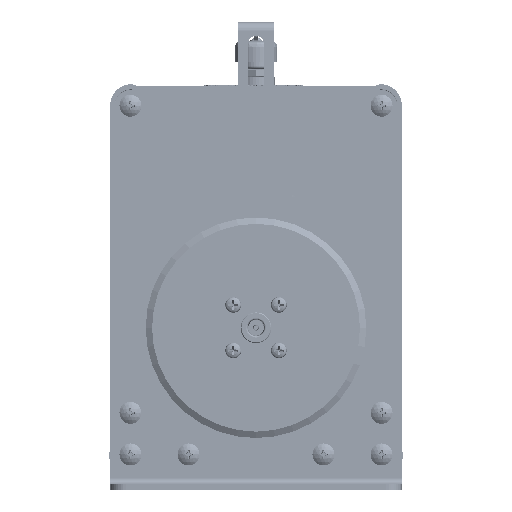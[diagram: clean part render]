
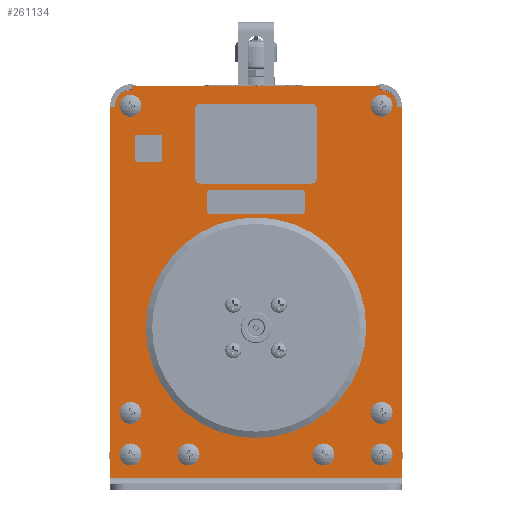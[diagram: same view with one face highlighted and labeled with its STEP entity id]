
A CAD part, front view. The second image highlights one B-rep face of the part: STEP entity #261134.
In plain terms, the highlighted planar face has unit normal (0, -1, 0).
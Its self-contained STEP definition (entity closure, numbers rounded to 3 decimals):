
#5617=LINE('',#359859,#35811);
#5618=LINE('',#359862,#35812);
#5619=LINE('',#359864,#35813);
#5620=LINE('',#359868,#35814);
#5621=LINE('',#359870,#35815);
#5622=LINE('',#359872,#35816);
#5623=LINE('',#359876,#35817);
#5624=LINE('',#359878,#35818);
#35811=VECTOR('',#294831,1000.);
#35812=VECTOR('',#294832,1000.);
#35813=VECTOR('',#294833,1000.);
#35814=VECTOR('',#294836,1000.);
#35815=VECTOR('',#294837,1000.);
#35816=VECTOR('',#294838,1000.);
#35817=VECTOR('',#294841,1000.);
#35818=VECTOR('',#294842,1000.);
#66661=PLANE('',#277368);
#78614=ORIENTED_EDGE('',*,*,#157714,.F.);
#78615=ORIENTED_EDGE('',*,*,#157694,.F.);
#78616=ORIENTED_EDGE('',*,*,#157696,.F.);
#78617=ORIENTED_EDGE('',*,*,#157698,.F.);
#78618=ORIENTED_EDGE('',*,*,#157700,.F.);
#78619=ORIENTED_EDGE('',*,*,#157702,.F.);
#78620=ORIENTED_EDGE('',*,*,#157704,.F.);
#78621=ORIENTED_EDGE('',*,*,#157706,.F.);
#78622=ORIENTED_EDGE('',*,*,#157713,.T.);
#78623=ORIENTED_EDGE('',*,*,#157715,.T.);
#78624=ORIENTED_EDGE('',*,*,#157716,.T.);
#78625=ORIENTED_EDGE('',*,*,#157717,.T.);
#78626=ORIENTED_EDGE('',*,*,#157718,.T.);
#78627=ORIENTED_EDGE('',*,*,#157719,.T.);
#78628=ORIENTED_EDGE('',*,*,#157720,.T.);
#78629=ORIENTED_EDGE('',*,*,#157721,.T.);
#78630=ORIENTED_EDGE('',*,*,#157722,.T.);
#78631=ORIENTED_EDGE('',*,*,#157723,.T.);
#78632=ORIENTED_EDGE('',*,*,#157724,.T.);
#157694=EDGE_CURVE('',#197254,#197254,#224564,.T.);
#157696=EDGE_CURVE('',#197256,#197256,#224566,.T.);
#157698=EDGE_CURVE('',#197258,#197258,#224568,.T.);
#157700=EDGE_CURVE('',#197260,#197260,#224570,.T.);
#157702=EDGE_CURVE('',#197262,#197262,#224572,.T.);
#157704=EDGE_CURVE('',#197264,#197264,#224574,.T.);
#157706=EDGE_CURVE('',#197266,#197266,#224576,.T.);
#157713=EDGE_CURVE('',#197273,#197273,#224583,.T.);
#157714=EDGE_CURVE('',#197274,#197274,#224584,.T.);
#157715=EDGE_CURVE('',#197275,#197276,#5617,.T.);
#157716=EDGE_CURVE('',#197276,#197277,#5618,.T.);
#157717=EDGE_CURVE('',#197277,#197278,#5619,.T.);
#157718=EDGE_CURVE('',#197278,#197279,#224585,.T.);
#157719=EDGE_CURVE('',#197279,#197280,#5620,.T.);
#157720=EDGE_CURVE('',#197280,#197281,#5621,.T.);
#157721=EDGE_CURVE('',#197281,#197282,#5622,.T.);
#157722=EDGE_CURVE('',#197282,#197283,#224586,.T.);
#157723=EDGE_CURVE('',#197283,#197284,#5623,.T.);
#157724=EDGE_CURVE('',#197284,#197275,#5624,.T.);
#197254=VERTEX_POINT('',#359738);
#197256=VERTEX_POINT('',#359743);
#197258=VERTEX_POINT('',#359748);
#197260=VERTEX_POINT('',#359753);
#197262=VERTEX_POINT('',#359758);
#197264=VERTEX_POINT('',#359763);
#197266=VERTEX_POINT('',#359768);
#197273=VERTEX_POINT('',#359855);
#197274=VERTEX_POINT('',#359858);
#197275=VERTEX_POINT('',#359860);
#197276=VERTEX_POINT('',#359861);
#197277=VERTEX_POINT('',#359863);
#197278=VERTEX_POINT('',#359865);
#197279=VERTEX_POINT('',#359867);
#197280=VERTEX_POINT('',#359869);
#197281=VERTEX_POINT('',#359871);
#197282=VERTEX_POINT('',#359873);
#197283=VERTEX_POINT('',#359875);
#197284=VERTEX_POINT('',#359877);
#224564=CIRCLE('',#277339,3.175);
#224566=CIRCLE('',#277342,3.175);
#224568=CIRCLE('',#277345,3.175);
#224570=CIRCLE('',#277348,3.175);
#224572=CIRCLE('',#277351,3.175);
#224574=CIRCLE('',#277354,3.175);
#224576=CIRCLE('',#277357,3.175);
#224583=CIRCLE('',#277367,53.975);
#224584=CIRCLE('',#277369,3.175);
#224585=CIRCLE('',#277370,7.938);
#224586=CIRCLE('',#277371,7.938);
#228815=EDGE_LOOP('',(#78614));
#228816=EDGE_LOOP('',(#78615));
#228817=EDGE_LOOP('',(#78616));
#228818=EDGE_LOOP('',(#78617));
#228819=EDGE_LOOP('',(#78618));
#228820=EDGE_LOOP('',(#78619));
#228821=EDGE_LOOP('',(#78620));
#228822=EDGE_LOOP('',(#78621));
#228823=EDGE_LOOP('',(#78622));
#228824=EDGE_LOOP('',(#78623,#78624,#78625,#78626,#78627,#78628,#78629,
#78630,#78631,#78632));
#244532=FACE_BOUND('',#228815,.T.);
#244533=FACE_BOUND('',#228816,.T.);
#244534=FACE_BOUND('',#228817,.T.);
#244535=FACE_BOUND('',#228818,.T.);
#244536=FACE_BOUND('',#228819,.T.);
#244537=FACE_BOUND('',#228820,.T.);
#244538=FACE_BOUND('',#228821,.T.);
#244539=FACE_BOUND('',#228822,.T.);
#244540=FACE_BOUND('',#228823,.T.);
#244541=FACE_BOUND('',#228824,.T.);
#261134=ADVANCED_FACE('',(#244532,#244533,#244534,#244535,#244536,#244537,
#244538,#244539,#244540,#244541),#66661,.T.);
#277339=AXIS2_PLACEMENT_3D('',#359737,#294769,#294770);
#277342=AXIS2_PLACEMENT_3D('',#359742,#294775,#294776);
#277345=AXIS2_PLACEMENT_3D('',#359747,#294781,#294782);
#277348=AXIS2_PLACEMENT_3D('',#359752,#294787,#294788);
#277351=AXIS2_PLACEMENT_3D('',#359757,#294793,#294794);
#277354=AXIS2_PLACEMENT_3D('',#359762,#294799,#294800);
#277357=AXIS2_PLACEMENT_3D('',#359767,#294805,#294806);
#277367=AXIS2_PLACEMENT_3D('',#359854,#294825,#294826);
#277368=AXIS2_PLACEMENT_3D('',#359856,#294827,#294828);
#277369=AXIS2_PLACEMENT_3D('',#359857,#294829,#294830);
#277370=AXIS2_PLACEMENT_3D('',#359866,#294834,#294835);
#277371=AXIS2_PLACEMENT_3D('',#359874,#294839,#294840);
#294769=DIRECTION('',(0.,-1.,0.));
#294770=DIRECTION('',(1.,0.,0.));
#294775=DIRECTION('',(0.,-1.,0.));
#294776=DIRECTION('',(1.,0.,0.));
#294781=DIRECTION('',(0.,-1.,0.));
#294782=DIRECTION('',(1.,0.,0.));
#294787=DIRECTION('',(0.,-1.,0.));
#294788=DIRECTION('',(1.,0.,0.));
#294793=DIRECTION('',(0.,-1.,0.));
#294794=DIRECTION('',(1.,0.,0.));
#294799=DIRECTION('',(0.,-1.,0.));
#294800=DIRECTION('',(1.,0.,0.));
#294805=DIRECTION('',(0.,-1.,0.));
#294806=DIRECTION('',(1.,0.,0.));
#294825=DIRECTION('',(0.,1.,0.));
#294826=DIRECTION('',(1.,0.,0.));
#294827=DIRECTION('',(0.,-1.,0.));
#294828=DIRECTION('',(0.,0.,1.));
#294829=DIRECTION('',(0.,-1.,0.));
#294830=DIRECTION('',(1.,0.,0.));
#294831=DIRECTION('',(1.,0.,0.));
#294832=DIRECTION('',(0.,0.,1.));
#294833=DIRECTION('',(-1.,0.,0.));
#294834=DIRECTION('',(0.,-1.,0.));
#294835=DIRECTION('',(0.996,0.,-0.093));
#294836=DIRECTION('',(0.,0.,1.));
#294837=DIRECTION('',(-1.,0.,0.));
#294838=DIRECTION('',(0.,0.,-1.));
#294839=DIRECTION('',(0.,-1.,0.));
#294840=DIRECTION('',(0.099,0.,0.995));
#294841=DIRECTION('',(-1.,0.,0.));
#294842=DIRECTION('',(0.,0.,-1.));
#359737=CARTESIAN_POINT('',(-65.075,11.112,115.062));
#359738=CARTESIAN_POINT('',(-61.9,11.112,115.062));
#359742=CARTESIAN_POINT('',(-65.075,11.112,-44.069));
#359743=CARTESIAN_POINT('',(-61.9,11.112,-44.069));
#359747=CARTESIAN_POINT('',(-65.075,11.112,-65.659));
#359748=CARTESIAN_POINT('',(-61.9,11.112,-65.659));
#359752=CARTESIAN_POINT('',(-34.925,11.112,-65.659));
#359753=CARTESIAN_POINT('',(-31.75,11.112,-65.659));
#359757=CARTESIAN_POINT('',(34.925,11.112,-65.659));
#359758=CARTESIAN_POINT('',(38.1,11.112,-65.659));
#359762=CARTESIAN_POINT('',(65.075,11.112,-44.069));
#359763=CARTESIAN_POINT('',(68.25,11.112,-44.069));
#359767=CARTESIAN_POINT('',(65.075,11.112,-65.659));
#359768=CARTESIAN_POINT('',(68.25,11.112,-65.659));
#359854=CARTESIAN_POINT('',(0.,11.112,0.));
#359855=CARTESIAN_POINT('',(53.975,11.112,0.));
#359856=CARTESIAN_POINT('',(79.21,11.112,-89.313));
#359857=CARTESIAN_POINT('',(65.075,11.112,115.062));
#359858=CARTESIAN_POINT('',(68.25,11.112,115.062));
#359859=CARTESIAN_POINT('',(-75.438,11.112,-77.724));
#359860=CARTESIAN_POINT('',(-75.438,11.112,-77.724));
#359861=CARTESIAN_POINT('',(75.438,11.112,-77.724));
#359862=CARTESIAN_POINT('',(75.438,11.112,-77.724));
#359863=CARTESIAN_POINT('',(75.438,11.112,114.325));
#359864=CARTESIAN_POINT('',(75.438,11.112,114.325));
#359865=CARTESIAN_POINT('',(72.978,11.112,114.325));
#359866=CARTESIAN_POINT('',(65.075,11.112,115.062));
#359867=CARTESIAN_POINT('',(64.287,11.112,122.96));
#359868=CARTESIAN_POINT('',(64.287,11.112,122.96));
#359869=CARTESIAN_POINT('',(64.287,11.112,125.476));
#359870=CARTESIAN_POINT('',(64.287,11.112,125.476));
#359871=CARTESIAN_POINT('',(-64.287,11.112,125.476));
#359872=CARTESIAN_POINT('',(-64.287,11.112,125.476));
#359873=CARTESIAN_POINT('',(-64.287,11.112,122.96));
#359874=CARTESIAN_POINT('',(-65.075,11.112,115.062));
#359875=CARTESIAN_POINT('',(-72.978,11.112,114.325));
#359876=CARTESIAN_POINT('',(-72.978,11.112,114.325));
#359877=CARTESIAN_POINT('',(-75.438,11.112,114.325));
#359878=CARTESIAN_POINT('',(-75.438,11.112,114.325));
